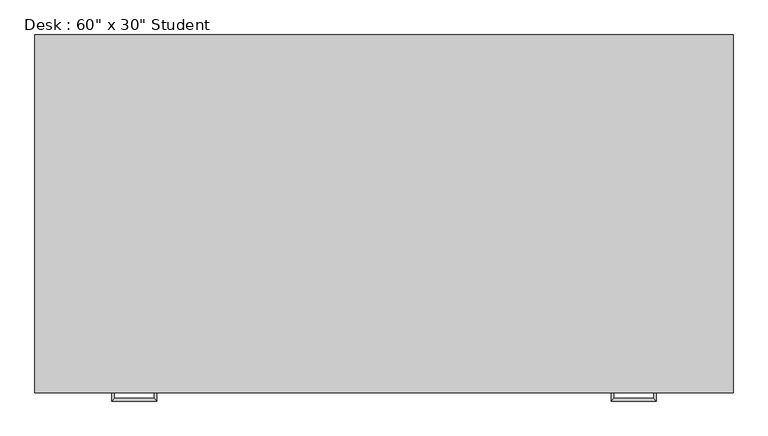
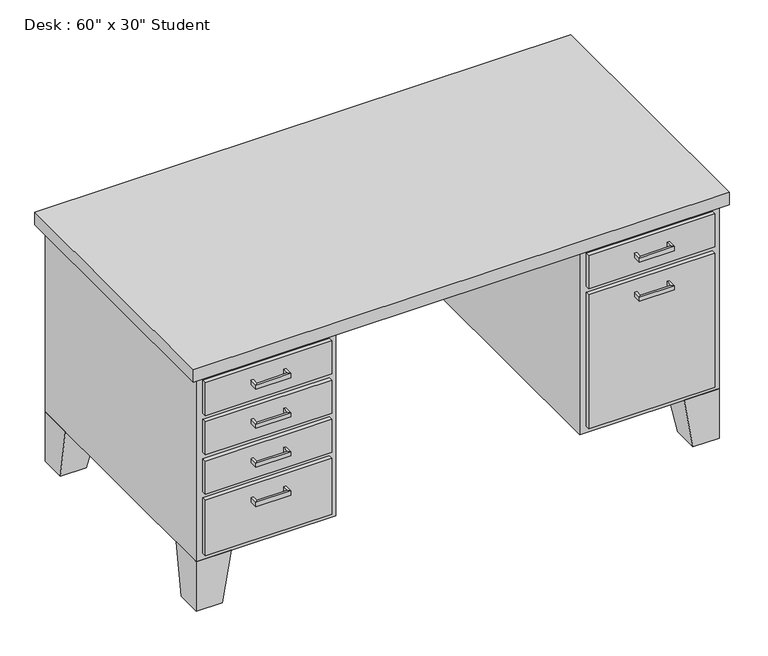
"""IFC4 building model written with IfcOpenShell, lengths in millimetres: furniture geometry."""

from ifc_helpers import new_model, si_unit, frame, origin, place, context, project, spatial, polyline, outline, extrude, faceted_brep, source, transform, mapped, element, save


def furniture_da8d8c81(model_context):
    return source(origin(), model_context, "Body", "SolidModel", [
        extrude(outline(polyline([(1504.95, -762.0), (1504.95, -774.7), (1136.65, -774.7), (1136.65, -762.0), (1504.95, -762.0)])), frame((0.0, 0.0, 603.25), z_axis=(0.0, 0.0, 1.0), x_axis=(1.0, 0.0, 0.0)), (0.0, 0.0, 1.0), 101.6),
        extrude(outline(polyline([(1504.95, -762.0), (1504.95, -774.7), (1136.65, -774.7), (1136.65, -762.0), (1504.95, -762.0)])), frame((0.0, 0.0, 171.45), z_axis=(0.0, 0.0, 1.0), x_axis=(1.0, 0.0, 0.0)), (0.0, 0.0, 1.0), 412.75),
        extrude(outline(polyline([(387.35, -762.0), (387.35, -774.7), (19.05, -774.7), (19.05, -762.0), (387.35, -762.0)])), frame((0.0, 0.0, 603.25), z_axis=(0.0, 0.0, 1.0), x_axis=(1.0, 0.0, 0.0)), (0.0, 0.0, 1.0), 101.6),
        extrude(outline(polyline([(387.35, -762.0), (387.35, -774.7), (19.05, -774.7), (19.05, -762.0), (387.35, -762.0)])), frame((0.0, 0.0, 171.45), z_axis=(0.0, 0.0, 1.0), x_axis=(1.0, 0.0, 0.0)), (0.0, 0.0, 1.0), 171.45),
        extrude(outline(polyline([(387.35, -762.0), (387.35, -774.7), (19.05, -774.7), (19.05, -762.0), (387.35, -762.0)])), frame((0.0, 0.0, 482.6), z_axis=(0.0, 0.0, 1.0), x_axis=(1.0, 0.0, 0.0)), (0.0, 0.0, 1.0), 101.6),
        extrude(outline(polyline([(387.35, -762.0), (387.35, -774.7), (19.05, -774.7), (19.05, -762.0), (387.35, -762.0)])), frame((0.0, 0.0, 361.95), z_axis=(0.0, 0.0, 1.0), x_axis=(1.0, 0.0, 0.0)), (0.0, 0.0, 1.0), 101.6),
        faceted_brep([(1422.4, -762.0, 152.4), (1524.0, -762.0, 152.4), (1524.0, -660.4, 152.4), (1422.4, -660.4, 152.4), (1447.8, -762.0, 0.0), (1447.8, -685.8, 0.0), (1524.0, -685.8, 0.0), (1524.0, -762.0, 0.0)], [[[0, 1, 2, 3]], [[4, 5, 6, 7]], [[4, 0, 3, 5]], [[5, 3, 2, 6]], [[6, 2, 1, 7]], [[7, 1, 0, 4]]]),
        faceted_brep([(1422.4, 0.0, 152.4), (1422.4, -101.6, 152.4), (1524.0, -101.6, 152.4), (1524.0, 0.0, 152.4), (1447.8, 0.0, 0.0), (1524.0, 0.0, 0.0), (1524.0, -76.2, 0.0), (1447.8, -76.2, 0.0)], [[[0, 1, 2, 3]], [[4, 5, 6, 7]], [[4, 0, 3, 5]], [[5, 3, 2, 6]], [[6, 2, 1, 7]], [[7, 1, 0, 4]]]),
        faceted_brep([(101.6, 0.0, 152.4), (0.0, 0.0, 152.4), (0.0, -101.6, 152.4), (101.6, -101.6, 152.4), (76.2, 0.0, 0.0), (76.2, -76.2, 0.0), (0.0, -76.2, 0.0), (0.0, 0.0, 0.0)], [[[0, 1, 2, 3]], [[4, 5, 6, 7]], [[4, 0, 3, 5]], [[5, 3, 2, 6]], [[6, 2, 1, 7]], [[7, 1, 0, 4]]]),
        faceted_brep([(101.6, -762.0, 152.4), (101.6, -660.4, 152.4), (0.0, -660.4, 152.4), (0.0, -762.0, 152.4), (76.2, -762.0, 0.0), (0.0, -762.0, 0.0), (0.0, -685.8, 0.0), (76.2, -685.8, 0.0)], [[[0, 1, 2, 3]], [[4, 5, 6, 7]], [[4, 0, 3, 5]], [[5, 3, 2, 6]], [[6, 2, 1, 7]], [[7, 1, 0, 4]]]),
        extrude(outline(polyline([(1543.05, -781.05), (-19.05, -781.05), (-19.05, 19.05), (1543.05, 19.05), (1543.05, -781.05)])), frame((0.0, 0.0, 723.9), z_axis=(0.0, 0.0, 1.0), x_axis=(1.0, 0.0, 0.0)), (0.0, 0.0, 1.0), 38.1),
        extrude(outline(polyline([(406.4, -762.0), (0.0, -762.0), (0.0, 0.0), (1524.0, 0.0), (1524.0, -762.0), (1117.6, -762.0), (1117.6, -50.8), (406.4, -50.8), (406.4, -762.0)])), frame((0.0, 0.0, 152.4), z_axis=(0.0, 0.0, 1.0), x_axis=(1.0, 0.0, 0.0)), (0.0, 0.0, 1.0), 571.5),
        faceted_brep([(1365.25, -774.7, 546.1), (1371.6, -774.7, 546.1), (1371.6, -774.7, 533.4), (1365.25, -774.7, 533.4), (1365.25, -793.75, 533.4), (1365.25, -793.75, 546.1), (1371.6, -800.1, 533.4), (1371.6, -800.1, 546.1), (1276.35, -793.75, 533.4), (1276.35, -793.75, 546.1), (1270.0, -800.1, 533.4), (1270.0, -800.1, 546.1), (1276.35, -774.7, 546.1), (1276.35, -774.7, 533.4), (1270.0, -774.7, 533.4), (1270.0, -774.7, 546.1)], [[[0, 1, 2, 3]], [[3, 4, 5, 0]], [[2, 6, 4, 3]], [[1, 7, 6, 2]], [[0, 5, 7, 1]], [[4, 8, 9, 5]], [[6, 10, 8, 4]], [[7, 11, 10, 6]], [[5, 9, 11, 7]], [[12, 13, 14, 15]], [[8, 13, 12, 9]], [[10, 14, 13, 8]], [[11, 15, 14, 10]], [[9, 12, 15, 11]]]),
        faceted_brep([(1365.25, -774.7, 666.75), (1371.6, -774.7, 666.75), (1371.6, -774.7, 654.05), (1365.25, -774.7, 654.05), (1365.25, -793.75, 654.05), (1365.25, -793.75, 666.75), (1371.6, -800.1, 654.05), (1371.6, -800.1, 666.75), (1276.35, -793.75, 654.05), (1276.35, -793.75, 666.75), (1270.0, -800.1, 654.05), (1270.0, -800.1, 666.75), (1276.35, -774.7, 666.75), (1276.35, -774.7, 654.05), (1270.0, -774.7, 654.05), (1270.0, -774.7, 666.75)], [[[0, 1, 2, 3]], [[3, 4, 5, 0]], [[2, 6, 4, 3]], [[1, 7, 6, 2]], [[0, 5, 7, 1]], [[4, 8, 9, 5]], [[6, 10, 8, 4]], [[7, 11, 10, 6]], [[5, 9, 11, 7]], [[12, 13, 14, 15]], [[8, 13, 12, 9]], [[10, 14, 13, 8]], [[11, 15, 14, 10]], [[9, 12, 15, 11]]]),
        faceted_brep([(158.75, -774.7, 304.8), (158.75, -774.7, 292.1), (152.4, -774.7, 292.1), (152.4, -774.7, 304.8), (152.4, -800.1, 304.8), (158.75, -793.75, 304.8), (152.4, -800.1, 292.1), (158.75, -793.75, 292.1), (254.0, -800.1, 304.8), (247.65, -793.75, 304.8), (254.0, -800.1, 292.1), (247.65, -793.75, 292.1), (247.65, -774.7, 304.8), (254.0, -774.7, 304.8), (254.0, -774.7, 292.1), (247.65, -774.7, 292.1)], [[[0, 1, 2, 3]], [[3, 4, 5, 0]], [[2, 6, 4, 3]], [[1, 7, 6, 2]], [[0, 5, 7, 1]], [[4, 8, 9, 5]], [[6, 10, 8, 4]], [[7, 11, 10, 6]], [[5, 9, 11, 7]], [[12, 13, 14, 15]], [[8, 13, 12, 9]], [[10, 14, 13, 8]], [[11, 15, 14, 10]], [[9, 12, 15, 11]]]),
        faceted_brep([(158.75, -774.7, 425.45), (158.75, -774.7, 412.75), (152.4, -774.7, 412.75), (152.4, -774.7, 425.45), (152.4, -800.1, 425.45), (158.75, -793.75, 425.45), (152.4, -800.1, 412.75), (158.75, -793.75, 412.75), (254.0, -800.1, 425.45), (247.65, -793.75, 425.45), (254.0, -800.1, 412.75), (247.65, -793.75, 412.75), (247.65, -774.7, 425.45), (254.0, -774.7, 425.45), (254.0, -774.7, 412.75), (247.65, -774.7, 412.75)], [[[0, 1, 2, 3]], [[3, 4, 5, 0]], [[2, 6, 4, 3]], [[1, 7, 6, 2]], [[0, 5, 7, 1]], [[4, 8, 9, 5]], [[6, 10, 8, 4]], [[7, 11, 10, 6]], [[5, 9, 11, 7]], [[12, 13, 14, 15]], [[8, 13, 12, 9]], [[10, 14, 13, 8]], [[11, 15, 14, 10]], [[9, 12, 15, 11]]]),
        faceted_brep([(158.75, -774.7, 546.1), (158.75, -774.7, 533.4), (152.4, -774.7, 533.4), (152.4, -774.7, 546.1), (152.4, -800.1, 546.1), (158.75, -793.75, 546.1), (152.4, -800.1, 533.4), (158.75, -793.75, 533.4), (254.0, -800.1, 546.1), (247.65, -793.75, 546.1), (254.0, -800.1, 533.4), (247.65, -793.75, 533.4), (247.65, -774.7, 546.1), (254.0, -774.7, 546.1), (254.0, -774.7, 533.4), (247.65, -774.7, 533.4)], [[[0, 1, 2, 3]], [[3, 4, 5, 0]], [[2, 6, 4, 3]], [[1, 7, 6, 2]], [[0, 5, 7, 1]], [[4, 8, 9, 5]], [[6, 10, 8, 4]], [[7, 11, 10, 6]], [[5, 9, 11, 7]], [[12, 13, 14, 15]], [[8, 13, 12, 9]], [[10, 14, 13, 8]], [[11, 15, 14, 10]], [[9, 12, 15, 11]]]),
        faceted_brep([(158.75, -774.7, 666.75), (158.75, -774.7, 654.05), (152.4, -774.7, 654.05), (152.4, -774.7, 666.75), (152.4, -800.1, 666.75), (158.75, -793.75, 666.75), (152.4, -800.1, 654.05), (158.75, -793.75, 654.05), (254.0, -800.1, 666.75), (247.65, -793.75, 666.75), (254.0, -800.1, 654.05), (247.65, -793.75, 654.05), (247.65, -774.7, 666.75), (254.0, -774.7, 666.75), (254.0, -774.7, 654.05), (247.65, -774.7, 654.05)], [[[0, 1, 2, 3]], [[3, 4, 5, 0]], [[2, 6, 4, 3]], [[1, 7, 6, 2]], [[0, 5, 7, 1]], [[4, 8, 9, 5]], [[6, 10, 8, 4]], [[7, 11, 10, 6]], [[5, 9, 11, 7]], [[12, 13, 14, 15]], [[8, 13, 12, 9]], [[10, 14, 13, 8]], [[11, 15, 14, 10]], [[9, 12, 15, 11]]]),
    ])


if __name__ == "__main__":
    model = new_model("IFC4")
    model_context = context("Model", 3, world=origin())
    ifc_project = project(units=[si_unit("LENGTHUNIT", "METRE", prefix="MILLI")], contexts=[model_context])
    site = spatial("IfcSite", under=ifc_project)
    building = spatial("IfcBuilding", under=site)
    placement = place(None, origin())
    furniture_shape = furniture_da8d8c81(model_context)
    element("IfcFurniture", 1, ObjectType="Desk : 60\" x 30\" Student", at=placement, inside=building, context=model_context, shape_type="MappedRepresentation", body=[
        mapped(furniture_shape, transform((0.0, 0.0, 0.0), x_axis=(1.0, 0.0, 0.0), y_axis=(0.0, 1.0, 0.0), z_axis=(0.0, 0.0, 1.0))),
    ])
    save(model, "model.ifc")
